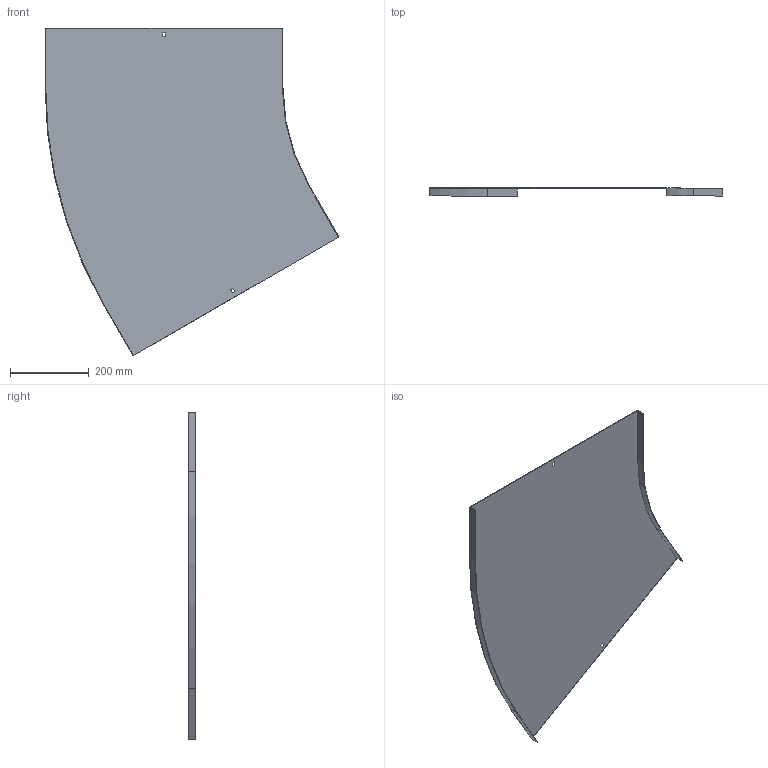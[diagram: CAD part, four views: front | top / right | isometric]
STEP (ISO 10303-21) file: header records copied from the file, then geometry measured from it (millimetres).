
FILE_DESCRIPTION (( 'STEP AP214' ), '1' );
FILE_NAME ('12N5R600.step', '2025-02-21T14:26:20', ( '' ), ( '' ), 'SwSTEP 2.0', 'SolidWorks 2023', '' );
FILE_SCHEMA (( 'AUTOMOTIVE_DESIGN' ));
Length unit declared in the file: millimetre
Products named in the file (1): 12N5R600
Bounding box: 744.79 x 20 x 830.65 mm (x, y, z)
Volume: 689948.4 mm3; surface area: 924100.8 mm2
Topology: 1 solids, 1 shells, 26 faces, 72 edges, 48 vertices
Faces by surface type: plane 22, cylinder 4
Entity records: 855 total; most frequent: CARTESIAN_POINT 147, ORIENTED_EDGE 144, DIRECTION 134, EDGE_CURVE 72, VECTOR 64, LINE 64, VERTEX_POINT 48, AXIS2_PLACEMENT_3D 35
